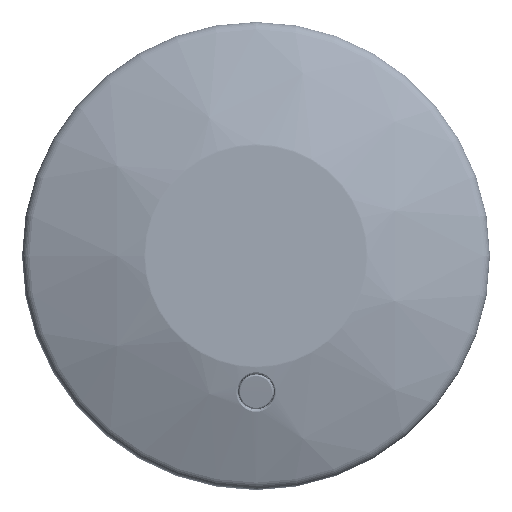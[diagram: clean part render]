
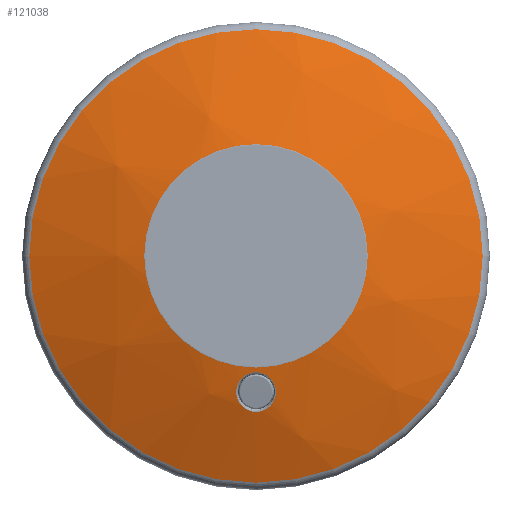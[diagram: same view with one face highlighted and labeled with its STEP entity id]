
A CAD part, top view. The second image highlights one B-rep face of the part: STEP entity #121038.
In plain terms, the highlighted spherical face has radius 89.061 mm.
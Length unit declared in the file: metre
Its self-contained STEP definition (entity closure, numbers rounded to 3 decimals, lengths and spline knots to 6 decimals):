
#664=SPHERICAL_SURFACE('',#134921,0.089061);
#1645=B_SPLINE_CURVE_WITH_KNOTS('',3,(#215922,#215923,#215924,#215925,#215926,
#215927),.UNSPECIFIED.,.F.,.F.,(4,2,4),(0.01874,0.01937,
0.02),.UNSPECIFIED.);
#1646=B_SPLINE_CURVE_WITH_KNOTS('',3,(#215929,#215930,#215931,#215932,#215933,
#215934,#215935),.UNSPECIFIED.,.F.,.F.,(4,1,1,1,4),(0.,0.25,0.5,0.75,1.),
 .UNSPECIFIED.);
#1663=B_SPLINE_CURVE_WITH_KNOTS('',3,(#216420,#216421,#216422,#216423,#216424,
#216425,#216426,#216427,#216428,#216429,#216430,#216431,#216432,#216433,
#216434,#216435,#216436,#216437,#216438,#216439,#216440,#216441,#216442,
#216443,#216444,#216445,#216446,#216447,#216448,#216449,#216450,#216451),
 .UNSPECIFIED.,.F.,.F.,(4,2,2,2,2,2,2,2,2,2,2,2,2,2,2,4),(0.02,
0.020565,0.02113,0.021695,0.02226,
0.022825,0.023389,0.023954,0.024519,
0.025084,0.025649,0.026778,0.027343,
0.027908,0.028473,0.029038),.UNSPECIFIED.);
#1664=B_SPLINE_CURVE_WITH_KNOTS('',3,(#216453,#216454,#216455,#216456),
 .UNSPECIFIED.,.F.,.F.,(4,4),(0.,1.),.UNSPECIFIED.);
#59340=ORIENTED_EDGE('',*,*,#78379,.T.);
#59341=ORIENTED_EDGE('',*,*,#78380,.T.);
#59342=ORIENTED_EDGE('',*,*,#78294,.T.);
#59343=ORIENTED_EDGE('',*,*,#78293,.T.);
#59344=ORIENTED_EDGE('',*,*,#78381,.T.);
#59345=ORIENTED_EDGE('',*,*,#78382,.T.);
#78293=EDGE_CURVE('',#90185,#90184,#1645,.T.);
#78294=EDGE_CURVE('',#90181,#90185,#1646,.T.);
#78379=EDGE_CURVE('',#90219,#90219,#95035,.T.);
#78380=EDGE_CURVE('',#90220,#90220,#95036,.T.);
#78381=EDGE_CURVE('',#90184,#90221,#1663,.T.);
#78382=EDGE_CURVE('',#90221,#90181,#1664,.T.);
#90181=VERTEX_POINT('',#215888);
#90184=VERTEX_POINT('',#215921);
#90185=VERTEX_POINT('',#215928);
#90219=VERTEX_POINT('',#216417);
#90220=VERTEX_POINT('',#216419);
#90221=VERTEX_POINT('',#216452);
#95035=CIRCLE('',#134922,0.036725);
#95036=CIRCLE('',#134923,0.018101);
#102141=EDGE_LOOP('',(#59340));
#102142=EDGE_LOOP('',(#59341));
#102143=EDGE_LOOP('',(#59342,#59343,#59344,#59345));
#109685=FACE_BOUND('',#102141,.T.);
#109686=FACE_BOUND('',#102142,.T.);
#109687=FACE_BOUND('',#102143,.T.);
#121038=ADVANCED_FACE('',(#109685,#109686,#109687),#664,.T.);
#134921=AXIS2_PLACEMENT_3D('',#216415,#166194,#166195);
#134922=AXIS2_PLACEMENT_3D('',#216416,#166196,#166197);
#134923=AXIS2_PLACEMENT_3D('',#216418,#166198,#166199);
#166194=DIRECTION('',(1.,0.,0.));
#166195=DIRECTION('',(0.,1.,0.));
#166196=DIRECTION('',(0.,0.,1.));
#166197=DIRECTION('',(-1.,0.,0.));
#166198=DIRECTION('',(0.,0.,-1.));
#166199=DIRECTION('',(-1.,0.,0.));
#215888=CARTESIAN_POINT('',(0.030525,0.017904,0.011987));
#215921=CARTESIAN_POINT('',(0.028075,0.011972,0.010469));
#215922=CARTESIAN_POINT('',(0.029293,0.011729,0.010406));
#215923=CARTESIAN_POINT('',(0.029084,0.01173,0.010406));
#215924=CARTESIAN_POINT('',(0.028874,0.011751,0.010412));
#215925=CARTESIAN_POINT('',(0.028467,0.011832,0.010433));
#215926=CARTESIAN_POINT('',(0.028268,0.011892,0.010448));
#215927=CARTESIAN_POINT('',(0.028075,0.011972,0.010469));
#215928=CARTESIAN_POINT('',(0.029293,0.011729,0.010406));
#215929=CARTESIAN_POINT('',(0.030525,0.017904,0.011987));
#215930=CARTESIAN_POINT('',(0.031219,0.017617,0.011914));
#215931=CARTESIAN_POINT('',(0.032364,0.016557,0.011645));
#215932=CARTESIAN_POINT('',(0.032702,0.014281,0.011063));
#215933=CARTESIAN_POINT('',(0.03153,0.012276,0.010547));
#215934=CARTESIAN_POINT('',(0.030049,0.011727,0.010406));
#215935=CARTESIAN_POINT('',(0.029293,0.011729,0.010406));
#216415=CARTESIAN_POINT('',(0.029293,0.037,-0.074994));
#216416=CARTESIAN_POINT('',(0.029293,0.037,0.006142));
#216417=CARTESIAN_POINT('',(-0.007432,0.037,0.006142));
#216418=CARTESIAN_POINT('',(0.029293,0.037,0.012208));
#216419=CARTESIAN_POINT('',(0.011192,0.037,0.012208));
#216420=CARTESIAN_POINT('',(0.028075,0.011972,0.010469));
#216421=CARTESIAN_POINT('',(0.027901,0.012044,0.010488));
#216422=CARTESIAN_POINT('',(0.027735,0.01213,0.01051));
#216423=CARTESIAN_POINT('',(0.02742,0.01233,0.010562));
#216424=CARTESIAN_POINT('',(0.027272,0.012444,0.010591));
#216425=CARTESIAN_POINT('',(0.026998,0.012694,0.010655));
#216426=CARTESIAN_POINT('',(0.026874,0.012829,0.01069));
#216427=CARTESIAN_POINT('',(0.026651,0.013118,0.010764));
#216428=CARTESIAN_POINT('',(0.026551,0.013273,0.010804));
#216429=CARTESIAN_POINT('',(0.026379,0.013596,0.010887));
#216430=CARTESIAN_POINT('',(0.026308,0.013763,0.01093));
#216431=CARTESIAN_POINT('',(0.026195,0.014107,0.011018));
#216432=CARTESIAN_POINT('',(0.026153,0.014285,0.011064));
#216433=CARTESIAN_POINT('',(0.026099,0.014645,0.011156));
#216434=CARTESIAN_POINT('',(0.026088,0.014825,0.011202));
#216435=CARTESIAN_POINT('',(0.026095,0.015185,0.011295));
#216436=CARTESIAN_POINT('',(0.026115,0.015367,0.011341));
#216437=CARTESIAN_POINT('',(0.026184,0.015724,0.011432));
#216438=CARTESIAN_POINT('',(0.026233,0.015898,0.011477));
#216439=CARTESIAN_POINT('',(0.02636,0.016237,0.011563));
#216440=CARTESIAN_POINT('',(0.026439,0.016403,0.011605));
#216441=CARTESIAN_POINT('',(0.026717,0.016878,0.011726));
#216442=CARTESIAN_POINT('',(0.026954,0.017159,0.011798));
#216443=CARTESIAN_POINT('',(0.027381,0.017516,0.011888));
#216444=CARTESIAN_POINT('',(0.027532,0.017622,0.011915));
#216445=CARTESIAN_POINT('',(0.027851,0.017807,0.011962));
#216446=CARTESIAN_POINT('',(0.02802,0.017887,0.011982));
#216447=CARTESIAN_POINT('',(0.028372,0.018016,0.012015));
#216448=CARTESIAN_POINT('',(0.028551,0.018064,0.012027));
#216449=CARTESIAN_POINT('',(0.028917,0.01813,0.012044));
#216450=CARTESIAN_POINT('',(0.029105,0.018147,0.012048));
#216451=CARTESIAN_POINT('',(0.029293,0.018147,0.012048));
#216452=CARTESIAN_POINT('',(0.029293,0.018147,0.012048));
#216453=CARTESIAN_POINT('',(0.029293,0.018147,0.012048));
#216454=CARTESIAN_POINT('',(0.029715,0.018148,0.012049));
#216455=CARTESIAN_POINT('',(0.030134,0.018066,0.012028));
#216456=CARTESIAN_POINT('',(0.030525,0.017904,0.011987));
